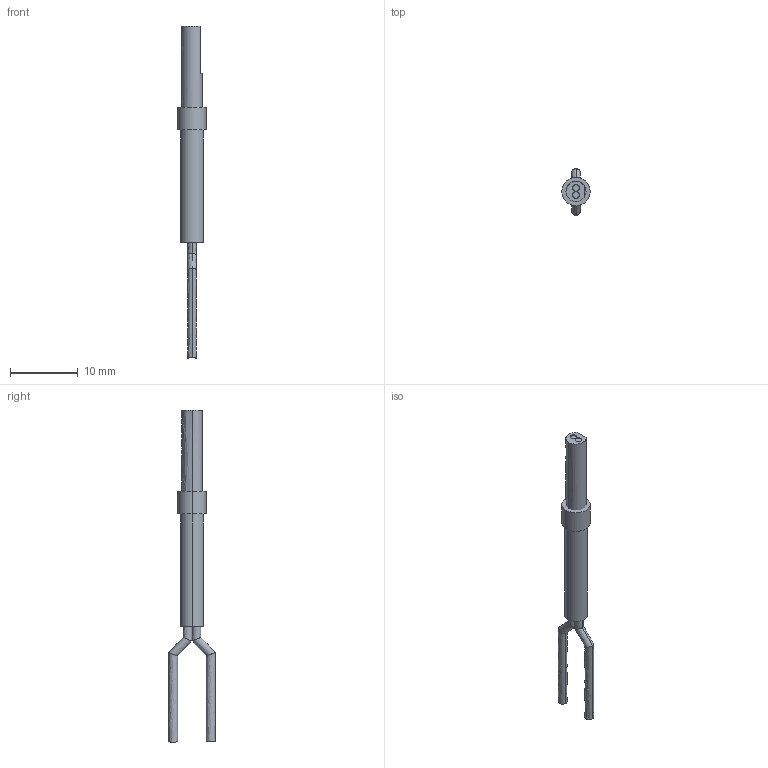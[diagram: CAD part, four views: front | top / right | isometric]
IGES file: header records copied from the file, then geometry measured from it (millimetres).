
Start section: SolidWorks IGES FILE using analytic representation for surfaces
Global section: file name: C:\Documents and Settings\yk0651\デスクトップ\3D_catalog_050904\0_IGES\FD-S80.IGS; native system: SolidWorks 2004 by SolidWorks Corporation; preprocessor: Version 5.3; author: yk0651; date: 050904.191732; units: millimetre
Bounding box: 4.2 x 6.88 x 49.17 mm (x, y, z)
Volume: 349 mm3; surface area: 552.3 mm2
Topology: 2 solids, 2 shells, 33 faces, 64 edges, 40 vertices
Faces by surface type: revolution 22, plane 11
